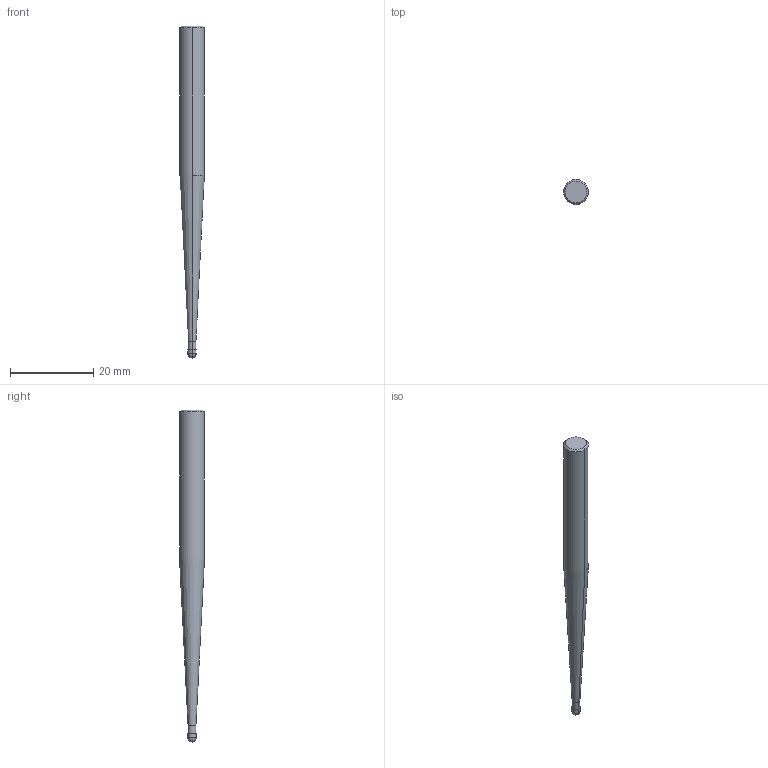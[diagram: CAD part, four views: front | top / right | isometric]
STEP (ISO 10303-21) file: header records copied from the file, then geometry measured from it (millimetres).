
FILE_DESCRIPTION(('no description'),'unknown implementation level');
FILE_NAME('solidRb3MqzV0STosz9quwO71f0ndcdg_1.STP',' ',('CIMSOURCE GmbH'),('CADClick - KiM GmbH - www.kimweb.de'),'unknown preprocess','ACIS','unknown authorization');
FILE_SCHEMA(('automotive_design'));
Length unit declared in the file: millimetre
Products named in the file (2): NOCUT; CUT
Bounding box: 6 x 6 x 80 mm (x, y, z)
Volume: 1561.3 mm3; surface area: 1231.3 mm2
Topology: 2 solids, 2 shells, 33 faces, 82 edges, 48 vertices
Faces by surface type: cylinder 12, cone 10, plane 9, sphere 2
Entity records: 2049 total; most frequent: CARTESIAN_POINT 377, DIRECTION 165, STYLED_ITEM 157, PRESENTATION_STYLE_ASSIGNMENT 157, COLOUR_RGB 157, ORIENTED_EDGE 148, EDGE_CURVE 74, CURVE_STYLE 74
